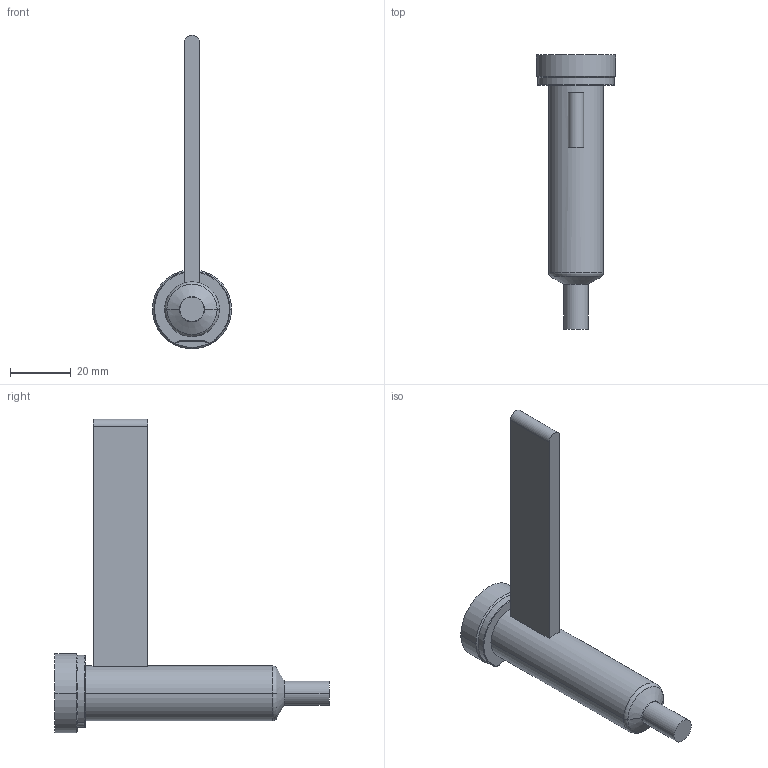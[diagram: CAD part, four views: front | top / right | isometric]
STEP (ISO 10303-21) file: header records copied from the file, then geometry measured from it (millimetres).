
FILE_DESCRIPTION((''),'2;1');
FILE_NAME('EO04_PG-FBE_STD_070_COT','2024-02-19T11:45:32',('sundharh'),(''),'CREO PARAMETRIC BY PTC INC, 2023154','CREO PARAMETRIC BY PTC INC, 2023154','');
FILE_SCHEMA(('CONFIG_CONTROL_DESIGN'));
Length unit declared in the file: millimetre
Products named in the file (1): EO04_PG-FBE_STD_070_COT
Bounding box: 26 x 90 x 103 mm (x, y, z)
Volume: 29429.4 mm3; surface area: 9455.6 mm2
Topology: 1 solids, 1 shells, 31 faces, 67 edges, 40 vertices
Faces by surface type: cylinder 11, plane 9, torus 7, cone 4
Entity records: 961 total; most frequent: CARTESIAN_POINT 228, DIRECTION 159, ORIENTED_EDGE 134, AXIS2_PLACEMENT_3D 67, EDGE_CURVE 67, VERTEX_POINT 40, CIRCLE 36, EDGE_LOOP 33
